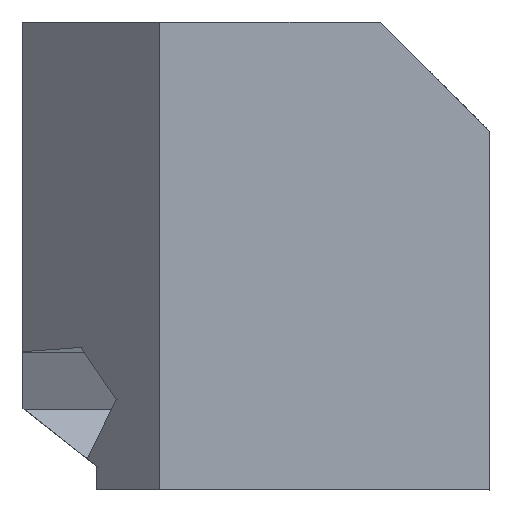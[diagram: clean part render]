
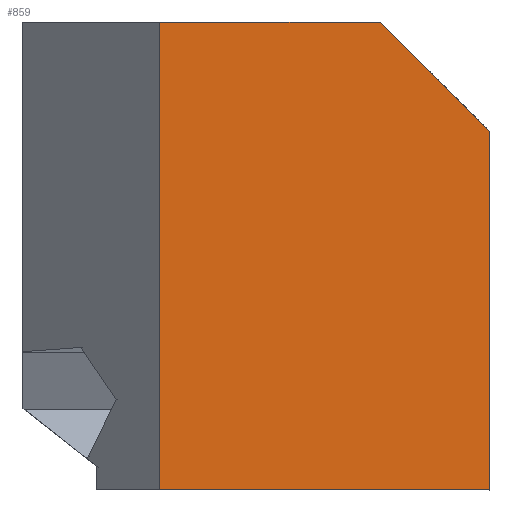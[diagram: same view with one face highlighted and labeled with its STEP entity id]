
A CAD part, top view. The second image highlights one B-rep face of the part: STEP entity #859.
In plain terms, the highlighted planar face has unit normal (0, 0, 1).
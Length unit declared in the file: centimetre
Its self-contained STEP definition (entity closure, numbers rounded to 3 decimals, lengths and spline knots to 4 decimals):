
#37 = EDGE_CURVE ( 'NONE', #531, #432, #134, .T. ) ;
#69 = EDGE_CURVE ( 'NONE', #611, #531, #758, .T. ) ;
#82 = CARTESIAN_POINT ( 'NONE',  ( 766.1316, 1000., 1000. ) ) ;
#87 = CARTESIAN_POINT ( 'NONE',  ( 1000., 0., 1000. ) ) ;
#111 = CARTESIAN_POINT ( 'NONE',  ( 0., 0., 1000. ) ) ;
#113 = VECTOR ( 'NONE', #242, 100. ) ;
#130 = CARTESIAN_POINT ( 'NONE',  ( 293.4326, 0., 1000. ) ) ;
#132 = VERTEX_POINT ( 'NONE', #87 ) ;
#133 = CARTESIAN_POINT ( 'NONE',  ( 293.4326, 1000., 1000. ) ) ;
#134 = LINE ( 'NONE', #130, #495 ) ;
#170 = ORIENTED_EDGE ( 'NONE', *, *, #69, .T. ) ;
#173 = LINE ( 'NONE', #506, #655 ) ;
#176 = DIRECTION ( 'NONE',  ( 1., 0., 0. ) ) ;
#183 = CARTESIAN_POINT ( 'NONE',  ( 293.4326, 0., 1000. ) ) ;
#242 = DIRECTION ( 'NONE',  ( -0.707, 0.707, 0. ) ) ;
#288 = ORIENTED_EDGE ( 'NONE', *, *, #508, .T. ) ;
#306 = CARTESIAN_POINT ( 'NONE',  ( 1000., 766.1316, 1000. ) ) ;
#332 = DIRECTION ( 'NONE',  ( -1., 0., 0. ) ) ;
#334 = VERTEX_POINT ( 'NONE', #306 ) ;
#335 = DIRECTION ( 'NONE',  ( 0., 1., 0. ) ) ;
#372 = FACE_OUTER_BOUND ( 'NONE', #806, .T. ) ;
#375 = EDGE_CURVE ( 'NONE', #334, #611, #857, .T. ) ;
#384 = DIRECTION ( 'NONE',  ( 1., 0., 0. ) ) ;
#394 = EDGE_CURVE ( 'NONE', #432, #132, #173, .T. ) ;
#432 = VERTEX_POINT ( 'NONE', #183 ) ;
#459 = PLANE ( 'NONE',  #624 ) ;
#475 = ORIENTED_EDGE ( 'NONE', *, *, #37, .T. ) ;
#495 = VECTOR ( 'NONE', #882, 100. ) ;
#506 = CARTESIAN_POINT ( 'NONE',  ( 0., 0., 1000. ) ) ;
#508 = EDGE_CURVE ( 'NONE', #132, #334, #612, .T. ) ;
#524 = CARTESIAN_POINT ( 'NONE',  ( 883.0658, 883.0658, 1000. ) ) ;
#531 = VERTEX_POINT ( 'NONE', #133 ) ;
#554 = VECTOR ( 'NONE', #332, 100. ) ;
#570 = ORIENTED_EDGE ( 'NONE', *, *, #375, .T. ) ;
#611 = VERTEX_POINT ( 'NONE', #82 ) ;
#612 = LINE ( 'NONE', #665, #747 ) ;
#624 = AXIS2_PLACEMENT_3D ( 'NONE', #111, #648, #384 ) ;
#648 = DIRECTION ( 'NONE',  ( 0., 0., 1. ) ) ;
#655 = VECTOR ( 'NONE', #176, 100. ) ;
#665 = CARTESIAN_POINT ( 'NONE',  ( 1000., 1000., 1000. ) ) ;
#747 = VECTOR ( 'NONE', #335, 100. ) ;
#758 = LINE ( 'NONE', #821, #554 ) ;
#806 = EDGE_LOOP ( 'NONE', ( #170, #475, #832, #288, #570 ) ) ;
#821 = CARTESIAN_POINT ( 'NONE',  ( 0., 1000., 1000. ) ) ;
#832 = ORIENTED_EDGE ( 'NONE', *, *, #394, .T. ) ;
#857 = LINE ( 'NONE', #524, #113 ) ;
#859 = ADVANCED_FACE ( 'NONE', ( #372 ), #459, .T. ) ;
#882 = DIRECTION ( 'NONE',  ( 0., -1., 0. ) ) ;
